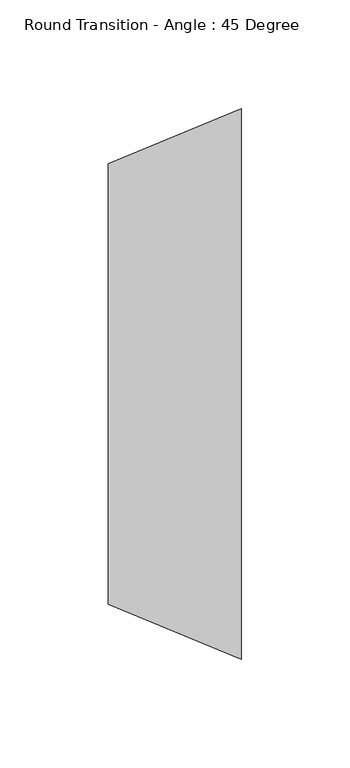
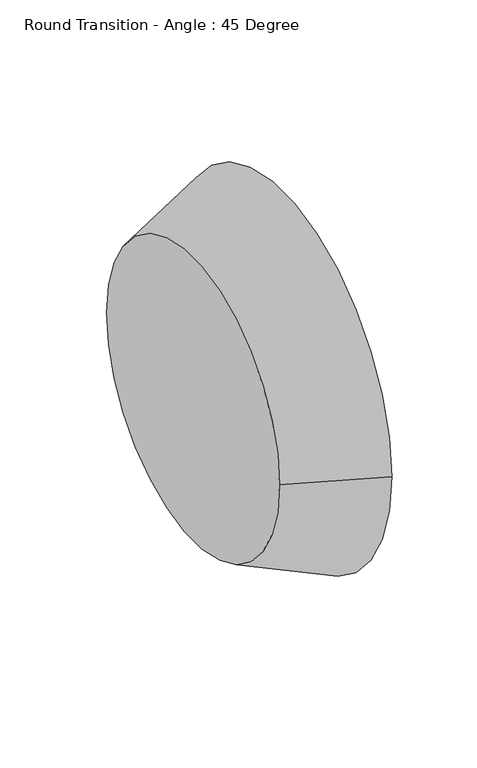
"""IFC4 building model written with IfcOpenShell, lengths in millimetres: duct fitting geometry, Round Transition - Angle : 45 Degree."""

from ifc_helpers import new_model, si_unit, frame, origin, place, context, project, spatial, polyline, circle_curve, source, transform, mapped, element, save
from ifc_brep_helpers import plane_surface, revolved_surface, advanced_brep


def round_transition_angle_45_degree_605ec02d(model_context):
    return source(origin(), model_context, "Body", "AdvancedBrep", [
        advanced_brep(
        [(61.3210245, 127.0, 0.0), (61.3210245, -127.0, 0.0), (0.0, 101.6, 0.0), (0.0, -101.6, 0.0)],
        [
            (0, 1, circle_curve(frame((61.3210245, 0.0, 0.0), z_axis=(1.0, 0.0, 0.0), x_axis=(0.0, -1.0, 0.0)), 127.0)),
            (1, 0, circle_curve(frame((61.3210245, 0.0, 0.0), z_axis=(1.0, 0.0, 0.0), x_axis=(0.0, 1.0, 0.0)), 127.0)),
            (2, 3, circle_curve(frame((0.0, 0.0, 0.0), z_axis=(-1.0, 0.0, 0.0), x_axis=(0.0, 1.0, 0.0)), 101.6)),
            (3, 2, circle_curve(frame((0.0, 0.0, 0.0), z_axis=(-1.0, 0.0, 0.0), x_axis=(0.0, -1.0, 0.0)), 101.6)),
            (2, 0),
            (1, 3),
        ],
        [
            plane_surface(frame((61.3210245, 0.0, 0.0), z_axis=(1.0, 0.0, 0.0), x_axis=(0.0, 0.0, -1.0))),
            plane_surface(frame((0.0, 0.0, 0.0), z_axis=(-1.0, 0.0, 0.0), x_axis=(0.0, 0.0, -1.0))),
            revolved_surface(polyline([(0.0, 101.59999999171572, 0.0), (61.32102450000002, 127.0, 0.0)]), (-245.2840979, 0.0, 0.0), (1.0, 0.0, 0.0)),
            revolved_surface(polyline([(0.0, -101.59999999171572, 0.0), (61.32102450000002, -127.0, 0.0)]), (-245.2840979, 0.0, 0.0), (1.0, 0.0, 0.0)),
        ],
        [
            (0, [[1, 2]]),
            (1, [[3, 4]]),
            (2, [[5, -2, 6, -3]]),
            (3, [[-6, -1, -5, -4]]),
        ],
    ),
    ])


if __name__ == "__main__":
    model = new_model("IFC4")
    model_context = context("Model", 3, world=origin())
    ifc_project = project(units=[si_unit("LENGTHUNIT", "METRE", prefix="MILLI")], contexts=[model_context])
    site = spatial("IfcSite", under=ifc_project)
    building = spatial("IfcBuilding", under=site)
    placement = place(None, origin())
    round_transition_angle_45_degree_shape = round_transition_angle_45_degree_605ec02d(model_context)
    element("IfcDuctFitting", 1, ObjectType="Round Transition - Angle : 45 Degree", at=placement, inside=building, context=model_context, shape_type="MappedRepresentation", body=[
        mapped(round_transition_angle_45_degree_shape, transform((0.0, 0.0, 0.0), x_axis=(1.0, 0.0, 0.0), y_axis=(0.0, 1.0, 0.0), z_axis=(0.0, 0.0, 1.0))),
    ])
    save(model, "model.ifc")
